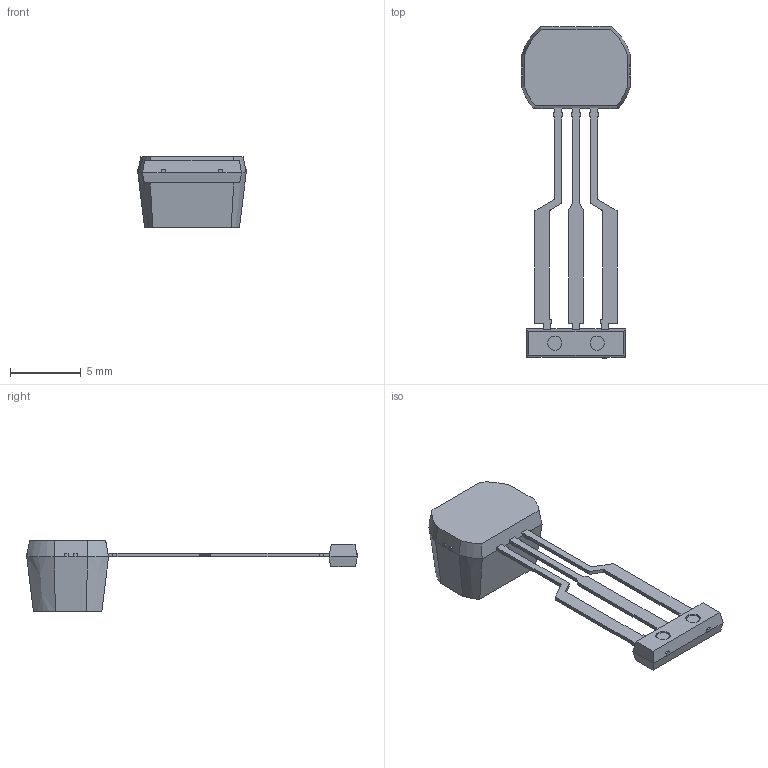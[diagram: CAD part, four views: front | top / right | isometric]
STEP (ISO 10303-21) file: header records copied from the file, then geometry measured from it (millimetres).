
FILE_DESCRIPTION (( 'STEP AP214' ), '1' );
FILE_NAME ('SM.STEP', '2017-03-29T15:00:46', ( '' ), ( '' ), 'SwSTEP 2.0', 'SolidWorks 2015', '' );
FILE_SCHEMA (( 'AUTOMOTIVE_DESIGN' ));
Length unit declared in the file: millimetre
Products named in the file (2): SM-Mold-1Piece; SM
Assembly tree (1 placements, depth 2):
  SM
    SM-Mold-1Piece
Bounding box: 7.75 x 23.46 x 5 mm (x, y, z)
Volume: 211.4 mm3; surface area: 332.8 mm2
Topology: 1 solids, 1 shells, 165 faces, 442 edges, 280 vertices
Faces by surface type: plane 147, cylinder 10, cone 8
Entity records: 5106 total; most frequent: CARTESIAN_POINT 939, ORIENTED_EDGE 884, DIRECTION 796, EDGE_CURVE 442, LINE 394, VECTOR 394, VERTEX_POINT 280, AXIS2_PLACEMENT_3D 201
